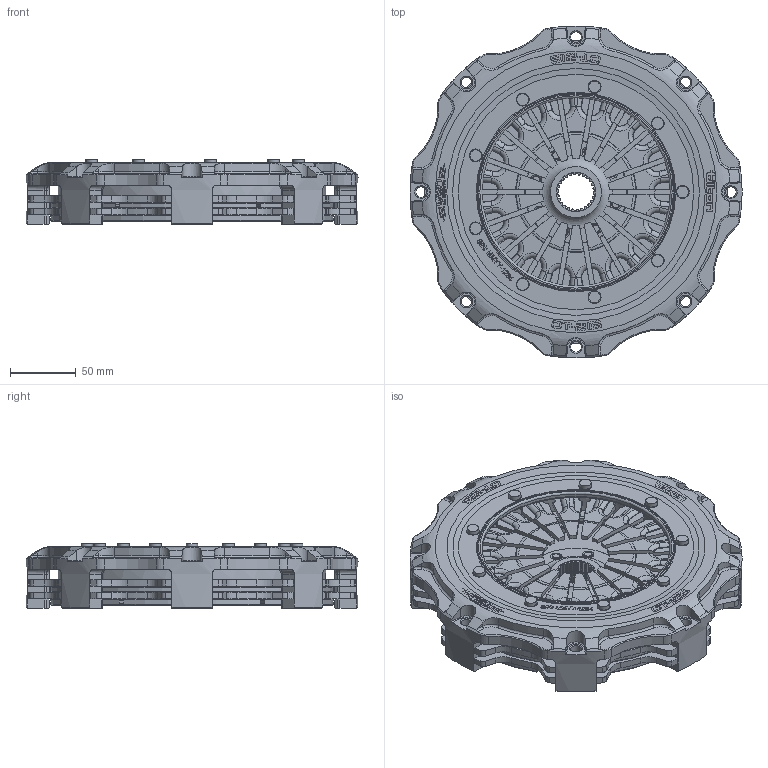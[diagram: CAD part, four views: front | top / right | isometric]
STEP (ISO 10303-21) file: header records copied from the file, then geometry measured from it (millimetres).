
FILE_DESCRIPTION(/* description */ ('Unknown'),/* implementation_level */ '2;1');
FILE_NAME(/* name */ '68-002',/* time_stamp */ '2024-02-23T10:20:32-08:00',/* author */ ('Unknown'),/* organization */ ('Unknown'),/* preprocessor_version */ 'ST-DEVELOPER v18.104',/* originating_system */ 'Solid Edge',/* authorisation */ 'Unknown');
FILE_SCHEMA (('AUTOMOTIVE_DESIGN {1 0 10303 214 3 1 1}'));
Products named in the file (1): 68-002
Bounding box: 252.96 x 252.96 x 49.35 mm (x, y, z)
Volume: 1111078.9 mm3; surface area: 304162.5 mm2
Topology: 10 solids, 10 shells, 2883 faces, 7999 edges, 5201 vertices
Faces by surface type: cylinder 1070, plane 873, torus 569, cone 288, bspline 83
Full cylindrical faces by diameter (mm): 5.309 x9, 6.375 x16, 6.5 x16, 6.528 x16, 8.204 x8, 8.89 x18, 12.7 x16, 44.501 x2, 78.74 x2, 143.51 x1, 148.59 x2, 167.352 x1, 203.962 x2, 219.024 x1
Entity records: 120235 total; most frequent: CARTESIAN_POINT 32375, ORIENTED_EDGE 15310, DIRECTION 12383, EDGE_CURVE 7655, VERTEX_POINT 5067, AXIS2_PLACEMENT_3D 4991, EDGE_LOOP 3262, FACE_BOUND 3262
